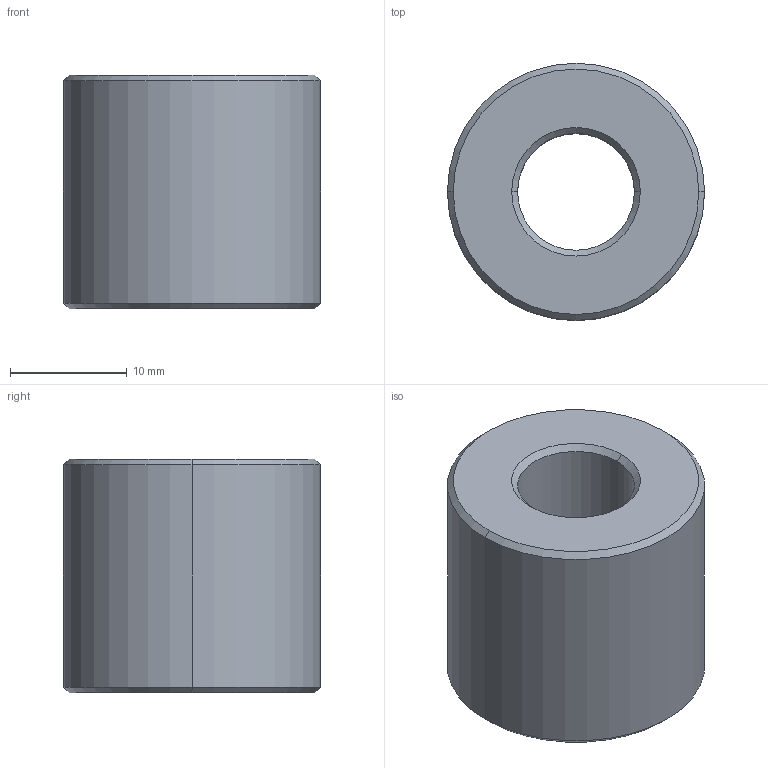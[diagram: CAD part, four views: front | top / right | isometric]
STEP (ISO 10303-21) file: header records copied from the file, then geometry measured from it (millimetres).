
FILE_DESCRIPTION (( 'STEP AP203' ), '1' );
FILE_NAME ('L1330.L10-02.step', '2024-10-24T09:21:39', ( '' ), ( '' ), 'SwSTEP 2.0', 'SolidWorks 2019', '' );
FILE_SCHEMA (( 'CONFIG_CONTROL_DESIGN' ));
Length unit declared in the file: millimetre
Products named in the file (1): L1330.L10-02
Bounding box: 22 x 22 x 20 mm (x, y, z)
Volume: 6006.7 mm3; surface area: 2554.9 mm2
Topology: 1 solids, 1 shells, 14 faces, 28 edges, 16 vertices
Faces by surface type: cone 8, cylinder 4, plane 2
Entity records: 445 total; most frequent: DIRECTION 74, CARTESIAN_POINT 59, ORIENTED_EDGE 56, AXIS2_PLACEMENT_3D 31, EDGE_CURVE 28, EDGE_LOOP 16, VERTEX_POINT 16, CIRCLE 16
